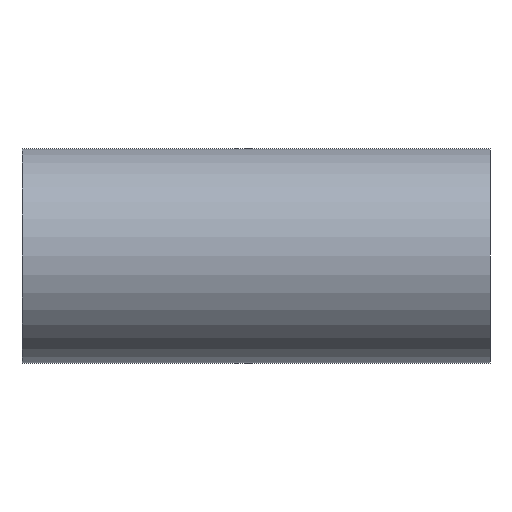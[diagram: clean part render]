
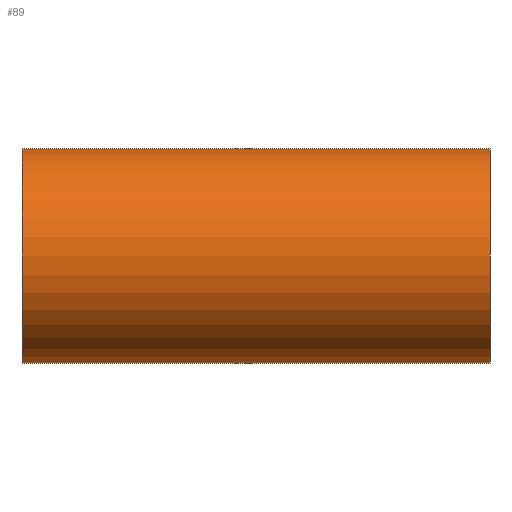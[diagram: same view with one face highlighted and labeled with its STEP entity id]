
A CAD part, front view. The second image highlights one B-rep face of the part: STEP entity #89.
In plain terms, the highlighted cylindrical face has radius 50.8 mm (diameter 101.6 mm), a partial arc.
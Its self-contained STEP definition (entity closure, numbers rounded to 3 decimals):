
#3 = CARTESIAN_POINT ( 'NONE',  ( -110.7, 0., -50.8 ) ) ;
#17 = EDGE_CURVE ( 'NONE', #101, #418, #153, .T. ) ;
#19 = DIRECTION ( 'NONE',  ( -1., 0., 0. ) ) ;
#20 = DIRECTION ( 'NONE',  ( -1., 0., 0. ) ) ;
#79 = DIRECTION ( 'NONE',  ( -1., 0., 0. ) ) ;
#89 = ADVANCED_FACE ( 'NONE', ( #313 ), #186, .T. ) ;
#101 = VERTEX_POINT ( 'NONE', #219 ) ;
#108 = DIRECTION ( 'NONE',  ( 0., 0., 1. ) ) ;
#135 = VECTOR ( 'NONE', #20, 1000. ) ;
#140 = DIRECTION ( 'NONE',  ( 1., 0., 0. ) ) ;
#141 = CARTESIAN_POINT ( 'NONE',  ( 254.384, 0., -50.8 ) ) ;
#153 = LINE ( 'NONE', #451, #135 ) ;
#156 = AXIS2_PLACEMENT_3D ( 'NONE', #463, #140, #420 ) ;
#186 = CYLINDRICAL_SURFACE ( 'NONE', #412, 50.8 ) ;
#198 = CARTESIAN_POINT ( 'NONE',  ( 254.384, 0., 0. ) ) ;
#199 = EDGE_LOOP ( 'NONE', ( #449, #485, #233, #248 ) ) ;
#206 = CARTESIAN_POINT ( 'NONE',  ( 110.7, 0., -50.8 ) ) ;
#216 = VERTEX_POINT ( 'NONE', #3 ) ;
#219 = CARTESIAN_POINT ( 'NONE',  ( 110.7, 0., 50.8 ) ) ;
#229 = EDGE_CURVE ( 'NONE', #427, #216, #554, .T. ) ;
#233 = ORIENTED_EDGE ( 'NONE', *, *, #17, .T. ) ;
#248 = ORIENTED_EDGE ( 'NONE', *, *, #357, .T. ) ;
#275 = CIRCLE ( 'NONE', #285, 50.8 ) ;
#285 = AXIS2_PLACEMENT_3D ( 'NONE', #470, #79, #108 ) ;
#313 = FACE_OUTER_BOUND ( 'NONE', #199, .T. ) ;
#323 = VECTOR ( 'NONE', #539, 1000. ) ;
#357 = EDGE_CURVE ( 'NONE', #418, #216, #473, .T. ) ;
#405 = DIRECTION ( 'NONE',  ( 0., 0., 1. ) ) ;
#412 = AXIS2_PLACEMENT_3D ( 'NONE', #198, #19, #405 ) ;
#418 = VERTEX_POINT ( 'NONE', #511 ) ;
#420 = DIRECTION ( 'NONE',  ( 0., 0., 1. ) ) ;
#427 = VERTEX_POINT ( 'NONE', #206 ) ;
#449 = ORIENTED_EDGE ( 'NONE', *, *, #229, .F. ) ;
#451 = CARTESIAN_POINT ( 'NONE',  ( 254.384, 0., 50.8 ) ) ;
#463 = CARTESIAN_POINT ( 'NONE',  ( -110.7, 0., 0. ) ) ;
#470 = CARTESIAN_POINT ( 'NONE',  ( 110.7, 0., 0. ) ) ;
#473 = CIRCLE ( 'NONE', #156, 50.8 ) ;
#485 = ORIENTED_EDGE ( 'NONE', *, *, #523, .T. ) ;
#511 = CARTESIAN_POINT ( 'NONE',  ( -110.7, 0., 50.8 ) ) ;
#523 = EDGE_CURVE ( 'NONE', #427, #101, #275, .T. ) ;
#539 = DIRECTION ( 'NONE',  ( -1., 0., 0. ) ) ;
#554 = LINE ( 'NONE', #141, #323 ) ;
